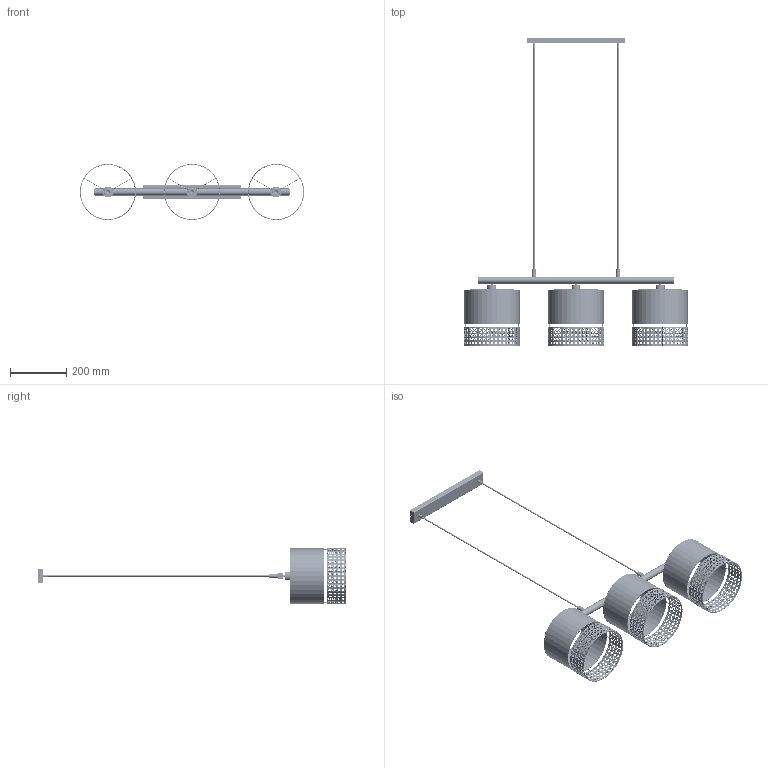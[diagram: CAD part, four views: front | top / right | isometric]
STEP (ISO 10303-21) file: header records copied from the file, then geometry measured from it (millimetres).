
FILE_DESCRIPTION(/* description */ (''),/* implementation_level */ '2;1');
FILE_NAME(/* name */ 'C:/Users/kubaw/OneDrive/Pulpit/Nowy folder (3)/6532_PAGLIA v8.step',/* time_stamp */ '2021-12-11T12:13:11+01:00',/* author */ (''),/* organization */ (''),/* preprocessor_version */ 'ST-DEVELOPER v18.1',/* originating_system */ 'Autodesk Translation Framework v10.10.0.1391',/* authorisation */ '');
FILE_SCHEMA (('AUTOMOTIVE_DESIGN { 1 0 10303 214 3 1 1 }'));
Length unit declared in the file: millimetre
Products named in the file (10): 6532_PAGLIA; 6532_KLOSZ v5 (1); MOCOWANIE_PAGLIA v3 (1); Belka górna_PAGLIA v3; ŚRUBA_ROLLO v1; ŚRUBA_ROLLO v1(Mirror); 6532_KLOSZ v5; MOCOWANIE_PAGLIA v3; 6532_KLOSZ v5 (2); MOCOWANIE_PAGLIA v3 (2)
Assembly tree (9 placements, depth 3):
  6532_PAGLIA
    6532_KLOSZ v5 (1)
      MOCOWANIE_PAGLIA v3 (1)
    Belka górna_PAGLIA v3
      ŚRUBA_ROLLO v1
      ŚRUBA_ROLLO v1(Mirror)
    6532_KLOSZ v5
      MOCOWANIE_PAGLIA v3
    6532_KLOSZ v5 (2)
      MOCOWANIE_PAGLIA v3 (2)
Bounding box: 800 x 1100 x 200 mm (x, y, z)
Volume: 1062807.7 mm3; surface area: 1117317.2 mm2
Topology: 611 solids, 614 shells, 5773 faces, 13617 edges, 9084 vertices
Faces by surface type: cylinder 2256, plane 1815, bspline 1535, torus 164, cone 3
Full cylindrical faces by diameter (mm): 2 x9, 4 x3, 5 x4, 5.5 x2, 7 x2, 8 x9, 10 x2, 14 x2, 15 x2, 19.84 x3, 24.929 x30, 25 x1, 26.88 x3, 28.8 x9, 32 x3, 33 x3, 33.12 x3, 38 x3, 193.978 x12, 194.978 x3, 196.978 x3, 197.978 x12, 198 x30, 200 x30
Entity records: 376080 total; most frequent: CARTESIAN_POINT 251822, ORIENTED_EDGE 27231, DIRECTION 22319, EDGE_CURVE 13617, AXIS2_PLACEMENT_3D 9170, VERTEX_POINT 9084, EDGE_LOOP 5904, FACE_OUTER_BOUND 5773
